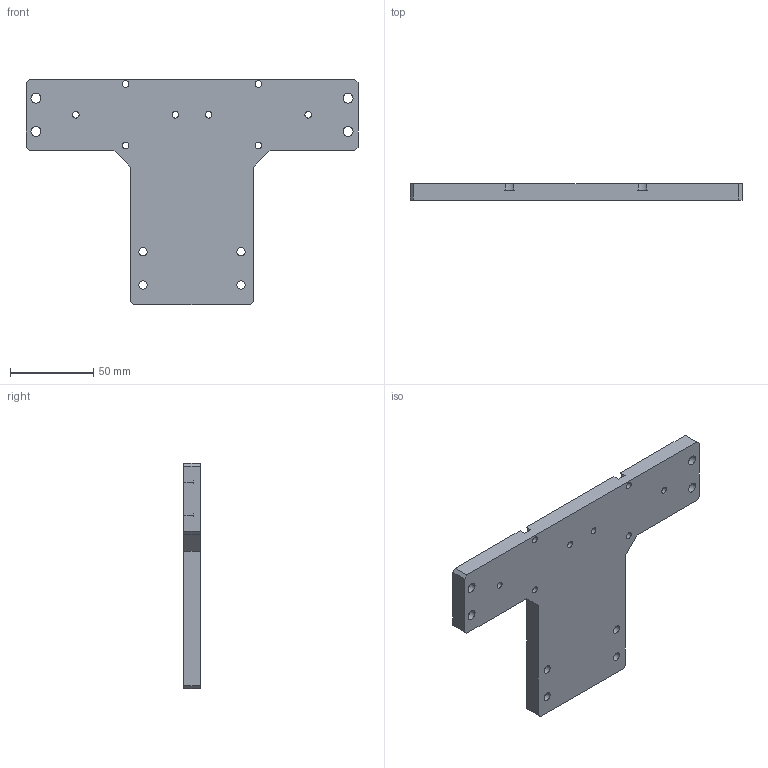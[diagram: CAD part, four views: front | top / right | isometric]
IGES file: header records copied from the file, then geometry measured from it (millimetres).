
Start section:  PTC IGES file: k46-k46l-ft.igs
Global section: file name: k46-k46l-ft.igs; native system: Pro/ENGINEER by Parametric Technology Corporation; preprocessor: 2008230; author: Owner; organization: Unknown; date: 20121212.100443; units: millimetre
Bounding box: 200 x 10 x 136 mm (x, y, z)
Surface area: 40166.3 mm2 (no closed solid volume)
Topology: 0 solids, 0 shells, 84 faces, 432 edges, 432 vertices
Faces by surface type: revolution 54, bspline 30
